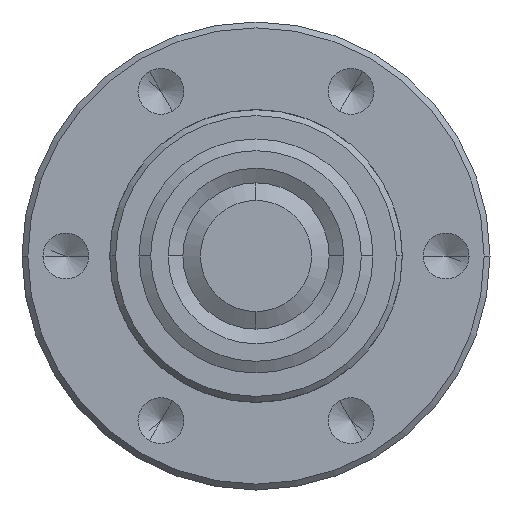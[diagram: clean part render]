
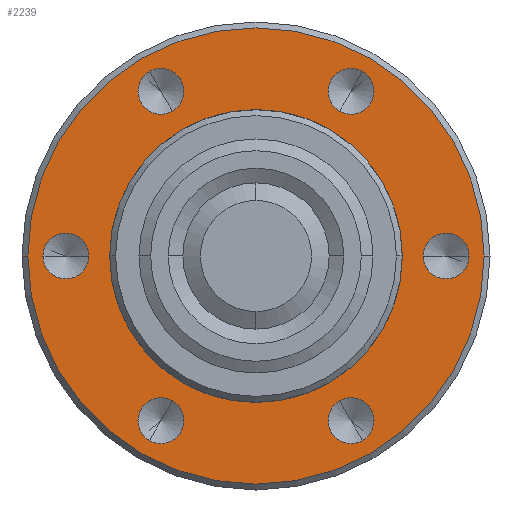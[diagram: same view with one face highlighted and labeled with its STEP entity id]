
A CAD part, left-side view. The second image highlights one B-rep face of the part: STEP entity #2239.
In plain terms, the highlighted planar face has unit normal (-1, 0, 0).
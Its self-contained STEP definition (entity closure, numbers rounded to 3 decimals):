
#97=CARTESIAN_POINT('',(0.,0.,0.));
#98=DIRECTION('',(-1.,0.,0.));
#99=DIRECTION('',(0.,1.,0.));
#100=AXIS2_PLACEMENT_3D('',#97,#98,#99);
#105=CARTESIAN_POINT('',(0.,0.,0.));
#106=DIRECTION('',(-1.,0.,0.));
#107=DIRECTION('',(0.,-1.,0.));
#108=AXIS2_PLACEMENT_3D('',#105,#106,#107);
#113=CARTESIAN_POINT('',(0.,6.5,0.));
#114=DIRECTION('',(1.,0.,0.));
#115=DIRECTION('',(0.,-1.,0.));
#116=AXIS2_PLACEMENT_3D('',#113,#114,#115);
#121=CARTESIAN_POINT('',(0.,6.5,0.));
#122=DIRECTION('',(1.,0.,0.));
#123=DIRECTION('',(0.,1.,0.));
#124=AXIS2_PLACEMENT_3D('',#121,#122,#123);
#129=CARTESIAN_POINT('',(0.,3.25,5.629));
#130=DIRECTION('',(1.,0.,0.));
#131=DIRECTION('',(0.,-0.5,-0.866));
#132=AXIS2_PLACEMENT_3D('',#129,#130,#131);
#137=CARTESIAN_POINT('',(0.,3.25,5.629));
#138=DIRECTION('',(1.,0.,0.));
#139=DIRECTION('',(0.,0.5,0.866));
#140=AXIS2_PLACEMENT_3D('',#137,#138,#139);
#145=CARTESIAN_POINT('',(0.,-3.25,5.629));
#146=DIRECTION('',(1.,0.,0.));
#147=DIRECTION('',(0.,0.5,-0.866));
#148=AXIS2_PLACEMENT_3D('',#145,#146,#147);
#153=CARTESIAN_POINT('',(0.,-3.25,5.629));
#154=DIRECTION('',(1.,0.,0.));
#155=DIRECTION('',(0.,-0.5,0.866));
#156=AXIS2_PLACEMENT_3D('',#153,#154,#155);
#161=CARTESIAN_POINT('',(0.,-6.5,0.));
#162=DIRECTION('',(1.,0.,0.));
#163=DIRECTION('',(0.,1.,0.));
#164=AXIS2_PLACEMENT_3D('',#161,#162,#163);
#169=CARTESIAN_POINT('',(0.,-6.5,0.));
#170=DIRECTION('',(1.,0.,0.));
#171=DIRECTION('',(0.,-1.,0.));
#172=AXIS2_PLACEMENT_3D('',#169,#170,#171);
#177=CARTESIAN_POINT('',(0.,-3.25,-5.629));
#178=DIRECTION('',(1.,0.,0.));
#179=DIRECTION('',(0.,0.5,0.866));
#180=AXIS2_PLACEMENT_3D('',#177,#178,#179);
#185=CARTESIAN_POINT('',(0.,-3.25,-5.629));
#186=DIRECTION('',(1.,0.,0.));
#187=DIRECTION('',(0.,-0.5,-0.866));
#188=AXIS2_PLACEMENT_3D('',#185,#186,#187);
#193=CARTESIAN_POINT('',(0.,3.25,-5.629));
#194=DIRECTION('',(1.,0.,0.));
#195=DIRECTION('',(0.,-0.5,0.866));
#196=AXIS2_PLACEMENT_3D('',#193,#194,#195);
#201=CARTESIAN_POINT('',(0.,3.25,-5.629));
#202=DIRECTION('',(1.,0.,0.));
#203=DIRECTION('',(0.,0.5,-0.866));
#204=AXIS2_PLACEMENT_3D('',#201,#202,#203);
#951=CARTESIAN_POINT('',(0.,0.,0.));
#952=DIRECTION('',(1.,0.,0.));
#953=DIRECTION('',(0.,1.,0.));
#954=AXIS2_PLACEMENT_3D('',#951,#952,#953);
#966=CARTESIAN_POINT('',(0.,0.,0.));
#967=DIRECTION('',(-1.,0.,0.));
#968=DIRECTION('',(0.,1.,0.));
#969=AXIS2_PLACEMENT_3D('',#966,#967,#968);
#1862=CARTESIAN_POINT('',(0.,5.715,0.));
#1863=CARTESIAN_POINT('',(0.,7.285,0.));
#1864=VERTEX_POINT('',#1862);
#1865=VERTEX_POINT('',#1863);
#1872=CARTESIAN_POINT('',(0.,2.858,4.949));
#1873=CARTESIAN_POINT('',(0.,3.643,6.309));
#1874=VERTEX_POINT('',#1872);
#1875=VERTEX_POINT('',#1873);
#1882=CARTESIAN_POINT('',(0.,-2.858,4.949));
#1883=CARTESIAN_POINT('',(0.,-3.643,6.309));
#1884=VERTEX_POINT('',#1882);
#1885=VERTEX_POINT('',#1883);
#1892=CARTESIAN_POINT('',(0.,-5.715,0.));
#1893=CARTESIAN_POINT('',(0.,-7.285,0.));
#1894=VERTEX_POINT('',#1892);
#1895=VERTEX_POINT('',#1893);
#1902=CARTESIAN_POINT('',(0.,-2.858,-4.949));
#1903=CARTESIAN_POINT('',(0.,-3.643,-6.309));
#1904=VERTEX_POINT('',#1902);
#1905=VERTEX_POINT('',#1903);
#1912=CARTESIAN_POINT('',(0.,2.858,-4.949));
#1913=CARTESIAN_POINT('',(0.,3.643,-6.309));
#1914=VERTEX_POINT('',#1912);
#1915=VERTEX_POINT('',#1913);
#1916=CARTESIAN_POINT('',(0.,7.8,0.));
#1917=CARTESIAN_POINT('',(0.,-7.8,0.));
#1918=VERTEX_POINT('',#1916);
#1919=VERTEX_POINT('',#1917);
#1952=CARTESIAN_POINT('',(0.,5.,0.));
#1954=VERTEX_POINT('',#1952);
#1960=CARTESIAN_POINT('',(0.,-5.,0.));
#1962=VERTEX_POINT('',#1960);
#2187=CARTESIAN_POINT('',(0.,0.,0.));
#2188=DIRECTION('',(-1.,0.,0.));
#2189=DIRECTION('',(0.,1.,0.));
#2190=AXIS2_PLACEMENT_3D('',#2187,#2188,#2189);
#2191=PLANE('',#2190);
#2192=ORIENTED_EDGE('',*,*,#2165,.F.);
#2194=ORIENTED_EDGE('',*,*,#2193,.F.);
#2195=EDGE_LOOP('',(#2192,#2194));
#2196=FACE_OUTER_BOUND('',#2195,.F.);
#2198=ORIENTED_EDGE('',*,*,#2197,.F.);
#2200=ORIENTED_EDGE('',*,*,#2199,.T.);
#2201=EDGE_LOOP('',(#2198,#2200));
#2202=FACE_BOUND('',#2201,.F.);
#2204=ORIENTED_EDGE('',*,*,#2203,.F.);
#2206=ORIENTED_EDGE('',*,*,#2205,.F.);
#2207=EDGE_LOOP('',(#2204,#2206));
#2208=FACE_BOUND('',#2207,.F.);
#2210=ORIENTED_EDGE('',*,*,#2209,.F.);
#2212=ORIENTED_EDGE('',*,*,#2211,.F.);
#2213=EDGE_LOOP('',(#2210,#2212));
#2214=FACE_BOUND('',#2213,.F.);
#2216=ORIENTED_EDGE('',*,*,#2215,.F.);
#2218=ORIENTED_EDGE('',*,*,#2217,.F.);
#2219=EDGE_LOOP('',(#2216,#2218));
#2220=FACE_BOUND('',#2219,.F.);
#2222=ORIENTED_EDGE('',*,*,#2221,.F.);
#2224=ORIENTED_EDGE('',*,*,#2223,.F.);
#2225=EDGE_LOOP('',(#2222,#2224));
#2226=FACE_BOUND('',#2225,.F.);
#2228=ORIENTED_EDGE('',*,*,#2227,.F.);
#2230=ORIENTED_EDGE('',*,*,#2229,.F.);
#2231=EDGE_LOOP('',(#2228,#2230));
#2232=FACE_BOUND('',#2231,.F.);
#2234=ORIENTED_EDGE('',*,*,#2233,.F.);
#2236=ORIENTED_EDGE('',*,*,#2235,.F.);
#2237=EDGE_LOOP('',(#2234,#2236));
#2238=FACE_BOUND('',#2237,.F.);
#2239=ADVANCED_FACE('',(#2196,#2202,#2208,#2214,#2220,#2226,#2232,#2238),#2191,
.T.);
#101=CIRCLE('',#100,7.8);
#109=CIRCLE('',#108,7.8);
#117=CIRCLE('',#116,0.785);
#125=CIRCLE('',#124,0.785);
#133=CIRCLE('',#132,0.785);
#141=CIRCLE('',#140,0.785);
#149=CIRCLE('',#148,0.785);
#157=CIRCLE('',#156,0.785);
#165=CIRCLE('',#164,0.785);
#173=CIRCLE('',#172,0.785);
#181=CIRCLE('',#180,0.785);
#189=CIRCLE('',#188,0.785);
#197=CIRCLE('',#196,0.785);
#205=CIRCLE('',#204,0.785);
#955=CIRCLE('',#954,5.);
#970=CIRCLE('',#969,5.);
#2165=EDGE_CURVE('',#1918,#1919,#101,.T.);
#2193=EDGE_CURVE('',#1919,#1918,#109,.T.);
#2197=EDGE_CURVE('',#1954,#1962,#955,.T.);
#2199=EDGE_CURVE('',#1954,#1962,#970,.T.);
#2203=EDGE_CURVE('',#1864,#1865,#117,.T.);
#2205=EDGE_CURVE('',#1865,#1864,#125,.T.);
#2209=EDGE_CURVE('',#1874,#1875,#133,.T.);
#2211=EDGE_CURVE('',#1875,#1874,#141,.T.);
#2215=EDGE_CURVE('',#1884,#1885,#149,.T.);
#2217=EDGE_CURVE('',#1885,#1884,#157,.T.);
#2221=EDGE_CURVE('',#1894,#1895,#165,.T.);
#2223=EDGE_CURVE('',#1895,#1894,#173,.T.);
#2227=EDGE_CURVE('',#1904,#1905,#181,.T.);
#2229=EDGE_CURVE('',#1905,#1904,#189,.T.);
#2233=EDGE_CURVE('',#1914,#1915,#197,.T.);
#2235=EDGE_CURVE('',#1915,#1914,#205,.T.);
